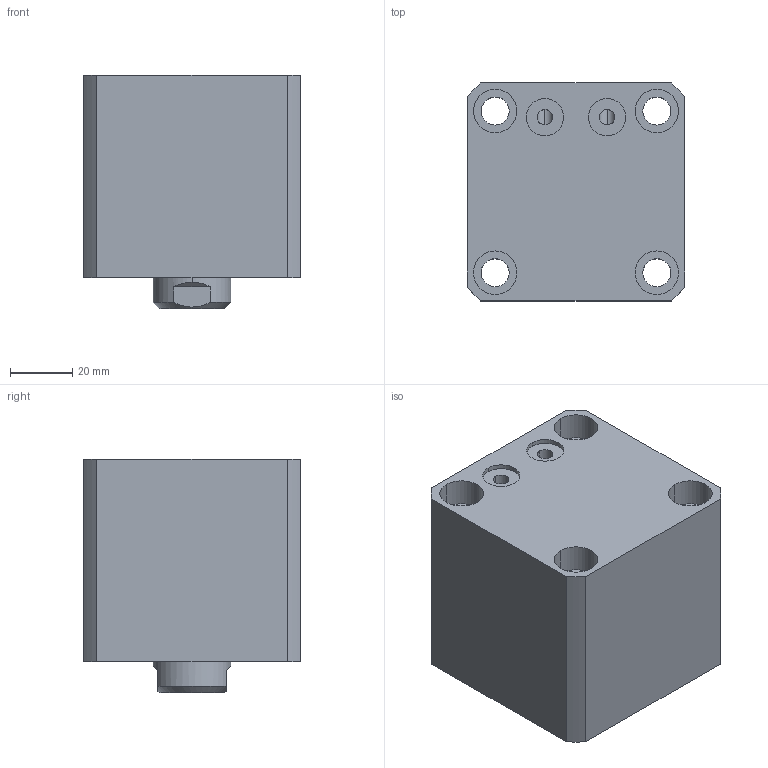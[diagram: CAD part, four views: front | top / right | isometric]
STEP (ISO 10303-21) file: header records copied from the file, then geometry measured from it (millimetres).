
FILE_DESCRIPTION (( 'STEP AP214' ), '1' );
FILE_NAME ('chtb-sdmb40x10n_asm.STEP', '2018-06-07T03:36:02', ( 'Windows' ), ( 'Microsoft' ), 'SwSTEP 2.0', 'SolidWorks 2015', '' );
FILE_SCHEMA (( 'AUTOMOTIVE_DESIGN' ));
Length unit declared in the file: millimetre
Products named in the file (4): CHTB-SDMB40X10NBT; CHTB-SD40X10NHSG; CHTB-SD40QG; chtb-sdmb40x10n_asm
Assembly tree (3 placements, depth 2):
  chtb-sdmb40x10n_asm
    CHTB-SD40QG
    CHTB-SD40X10NHSG
    CHTB-SDMB40X10NBT
Bounding box: 70 x 70 x 75 mm (x, y, z)
Volume: 279470.4 mm3; surface area: 64808.8 mm2
Topology: 3 solids, 3 shells, 155 faces, 407 edges, 270 vertices
Faces by surface type: cylinder 84, plane 34, bspline 14, torus 14, cone 9
Entity records: 10007 total; most frequent: CARTESIAN_POINT 6085, ORIENTED_EDGE 802, DIRECTION 758, EDGE_CURVE 401, AXIS2_PLACEMENT_3D 322, VERTEX_POINT 270, EDGE_LOOP 191, CIRCLE 175
